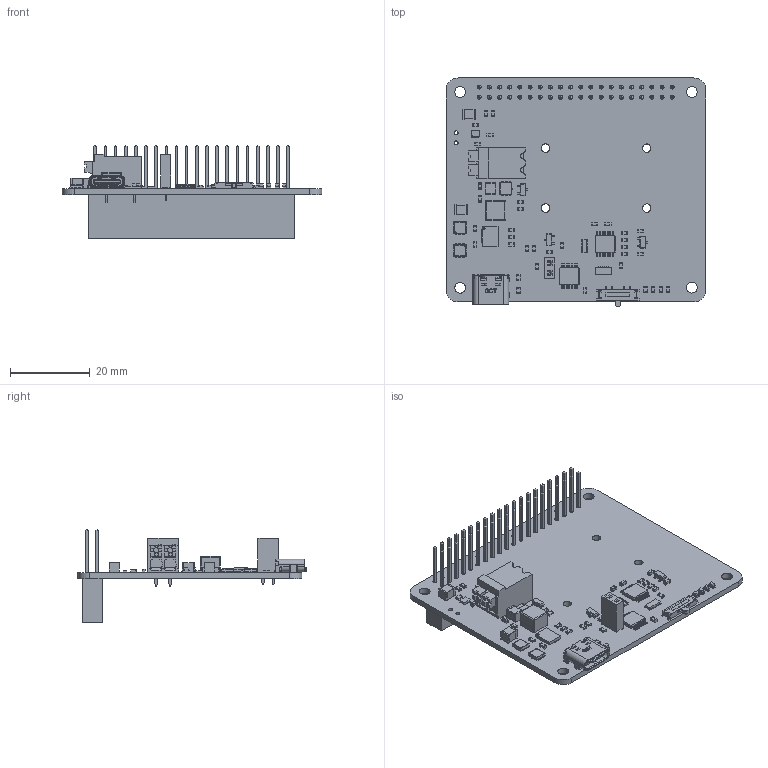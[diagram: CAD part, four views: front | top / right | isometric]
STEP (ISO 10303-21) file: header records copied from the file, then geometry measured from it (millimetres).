
FILE_DESCRIPTION(('FreeCAD Model'),'2;1');
FILE_NAME('Open CASCADE Shape Model','2026-04-26T18:49:31',(''),(''), 'Open CASCADE STEP processor 7.8','FreeCAD','Unknown');
FILE_SCHEMA(('AUTOMOTIVE_DESIGN { 1 0 10303 214 1 1 1 1 }'));
Length unit declared in the file: millimetre
Products named in the file (3): Unnamed; qUPS-P-LF_PCB; Fusion
Assembly tree (2 placements, depth 2):
  Unnamed
    qUPS-P-LF_PCB
    Fusion
Bounding box: 65 x 57.05 x 23.24 mm (x, y, z)
Volume: 9495.2 mm3; surface area: 14540.4 mm2
Topology: 170 solids, 170 shells, 4579 faces, 11819 edges, 7639 vertices
Faces by surface type: plane 3559, cylinder 875, bspline 93, cone 48, sphere 4
Full cylindrical faces by diameter (mm): 0.202 x1, 0.25 x4, 0.4 x6, 0.5 x3, 0.6 x2, 0.8 x2, 0.9 x2, 1 x44, 1.2 x4, 1.3 x2, 2.1 x4, 2.7 x4
Entity records: 140277 total; most frequent: CARTESIAN_POINT 27101, ORIENTED_EDGE 23624, DIRECTION 21870, EDGE_CURVE 11812, LINE 9570, VECTOR 9570, VERTEX_POINT 7639, AXIS2_PLACEMENT_3D 6150
